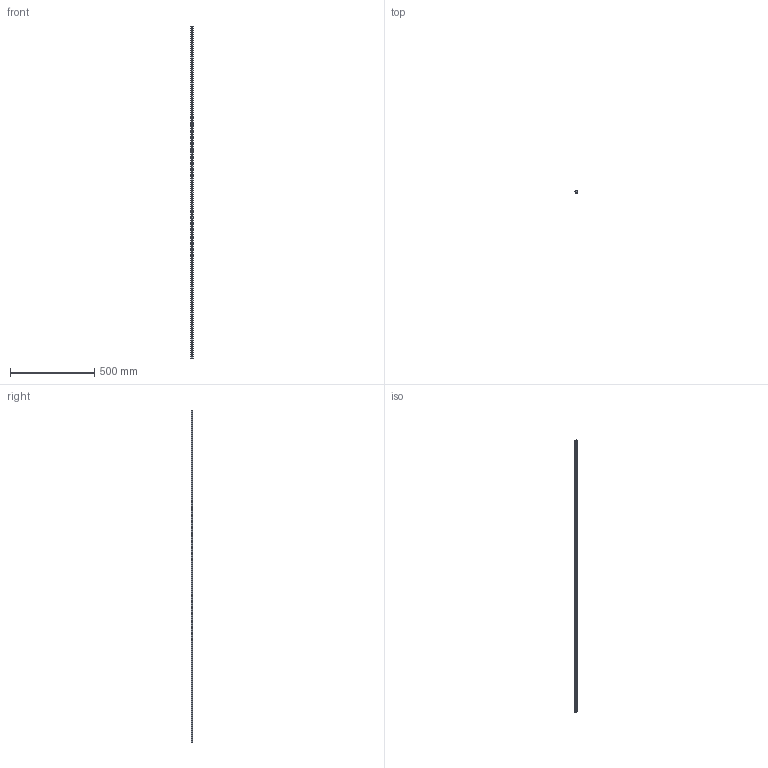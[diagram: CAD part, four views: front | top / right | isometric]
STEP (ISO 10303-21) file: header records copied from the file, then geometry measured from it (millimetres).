
FILE_DESCRIPTION(('STEP AP203'),'1');
FILE_NAME('slide_nvel1976p1.stp','2022-07-04T01:17:34',('TraceParts'),('TraceParts S.A.'),'Spatial InterOp 3D',' ',' ');
FILE_SCHEMA(('CONFIG_CONTROL_DESIGN'));
Length unit declared in the file: millimetre
Products named in the file (1): 1
Bounding box: 15.82 x 10 x 1976 mm (x, y, z)
Volume: 237394.8 mm3; surface area: 106918.2 mm2
Topology: 1 solids, 1 shells, 199 faces, 591 edges, 394 vertices
Faces by surface type: plane 101, cylinder 98
Entity records: 6941 total; most frequent: DIRECTION 1275, CARTESIAN_POINT 1185, ORIENTED_EDGE 1182, EDGE_CURVE 591, AXIS2_PLACEMENT_3D 484, VERTEX_POINT 394, LINE 307, VECTOR 307
